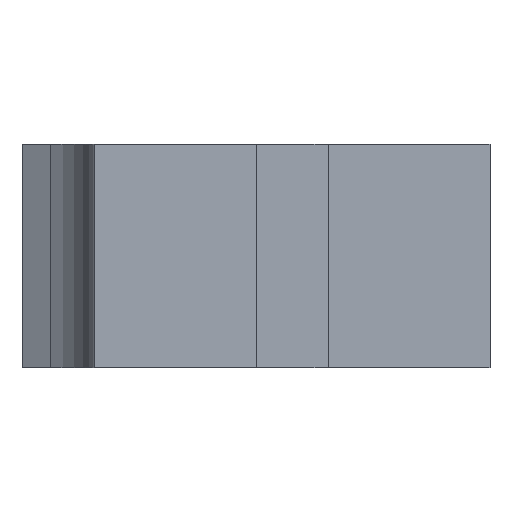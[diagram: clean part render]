
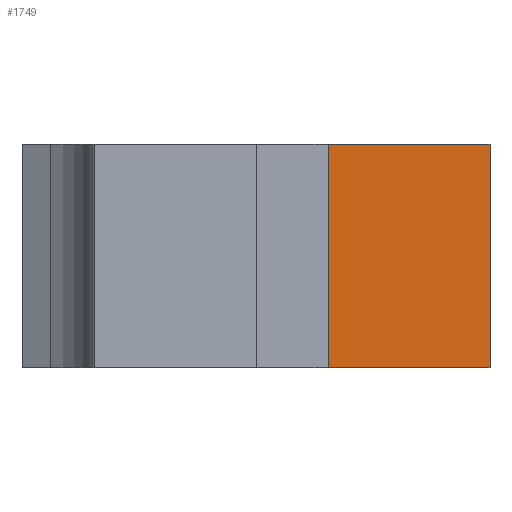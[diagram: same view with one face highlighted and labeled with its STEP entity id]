
A CAD part, front view. The second image highlights one B-rep face of the part: STEP entity #1749.
In plain terms, the highlighted planar face has unit normal (0, -1, 0).
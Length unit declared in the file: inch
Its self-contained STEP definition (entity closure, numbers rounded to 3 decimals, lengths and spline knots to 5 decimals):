
#1691=CARTESIAN_POINT('',(0.88083,-0.88583,1.0));
#1692=VERTEX_POINT('',#1691);
#1700=CARTESIAN_POINT('',(0.88083,-0.88583,0.0));
#1701=VERTEX_POINT('',#1700);
#1702=CARTESIAN_POINT('',(0.88083,-0.88583,0.0));
#1703=DIRECTION('',(0.0,0.0,1.0));
#1704=VECTOR('',#1703,1.0);
#1705=LINE('',#1702,#1704);
#1706=EDGE_CURVE('',#1701,#1692,#1705,.T.);
#1719=CARTESIAN_POINT('',(0.88083,-0.88583,0.0));
#1720=DIRECTION('',(0.0,-1.0,0.0));
#1721=DIRECTION('',(0.0,0.0,-1.0));
#1722=AXIS2_PLACEMENT_3D('',#1719,#1720,#1721);
#1723=PLANE('',#1722);
#1724=CARTESIAN_POINT('',(0.16142,-0.88583,1.0));
#1725=VERTEX_POINT('',#1724);
#1726=CARTESIAN_POINT('',(0.88083,-0.88583,1.0));
#1727=DIRECTION('',(-1.0,0.0,0.0));
#1728=VECTOR('',#1727,0.71941);
#1729=LINE('',#1726,#1728);
#1730=EDGE_CURVE('',#1692,#1725,#1729,.T.);
#1731=ORIENTED_EDGE('',*,*,#1730,.T.);
#1732=CARTESIAN_POINT('',(0.16142,-0.88583,0.0));
#1733=VERTEX_POINT('',#1732);
#1734=CARTESIAN_POINT('',(0.16142,-0.88583,0.0));
#1735=DIRECTION('',(0.0,0.0,1.0));
#1736=VECTOR('',#1735,1.0);
#1737=LINE('',#1734,#1736);
#1738=EDGE_CURVE('',#1733,#1725,#1737,.T.);
#1739=ORIENTED_EDGE('',*,*,#1738,.F.);
#1740=CARTESIAN_POINT('',(0.16142,-0.88583,0.0));
#1741=DIRECTION('',(1.0,0.0,0.0));
#1742=VECTOR('',#1741,0.71941);
#1743=LINE('',#1740,#1742);
#1744=EDGE_CURVE('',#1733,#1701,#1743,.T.);
#1745=ORIENTED_EDGE('',*,*,#1744,.T.);
#1746=ORIENTED_EDGE('',*,*,#1706,.T.);
#1747=EDGE_LOOP('',(#1731,#1739,#1745,#1746));
#1748=FACE_OUTER_BOUND('',#1747,.T.);
#1749=ADVANCED_FACE('',(#1748),#1723,.T.);
